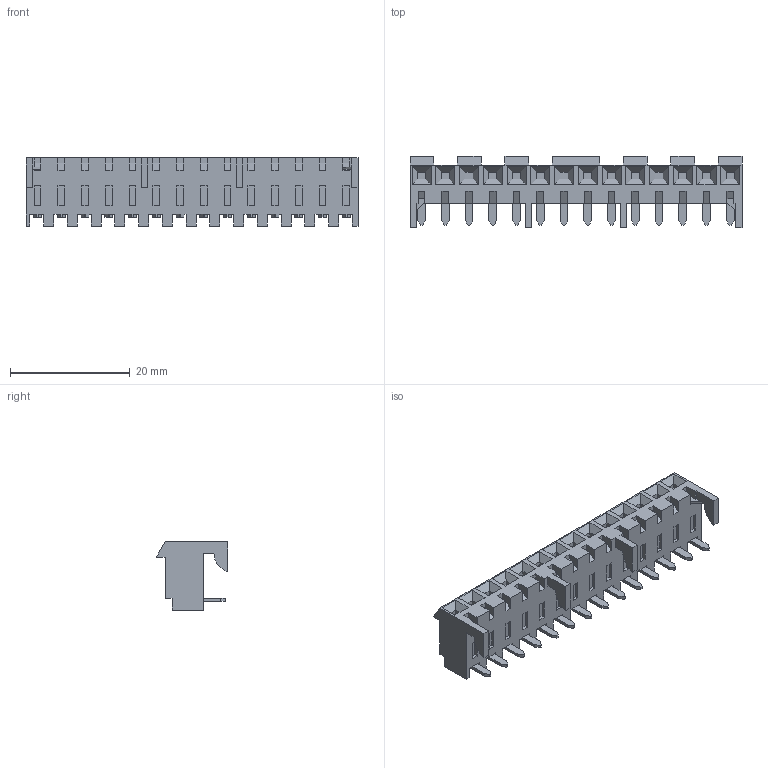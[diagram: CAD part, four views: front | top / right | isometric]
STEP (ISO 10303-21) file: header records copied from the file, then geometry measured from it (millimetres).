
FILE_DESCRIPTION((''),'2;1');
FILE_NAME('009483145','2017-05-24T',('ghp'),(''),'PRO/ENGINEER BY PARAMETRIC TECHNOLOGY CORPORATION, 2012310','PRO/ENGINEER BY PARAMETRIC TECHNOLOGY CORPORATION, 2012310','');
FILE_SCHEMA(('CONFIG_CONTROL_DESIGN'));
Length unit declared in the file: millimetre
Products named in the file (1): 009483145
Bounding box: 55.37 x 11.89 x 11.4 mm (x, y, z)
Volume: 3367.8 mm3; surface area: 2767 mm2
Topology: 1 solids, 1 shells, 484 faces, 1302 edges, 856 vertices
Faces by surface type: plane 466, cylinder 18
Entity records: 14757 total; most frequent: CARTESIAN_POINT 2599, ORIENTED_EDGE 2532, DIRECTION 2336, EDGE_CURVE 1266, VECTOR 1238, LINE 1238, VERTEX_POINT 812, AXIS2_PLACEMENT_3D 549
